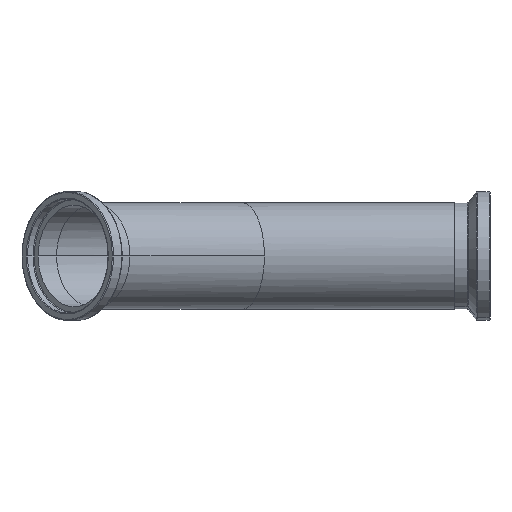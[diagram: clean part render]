
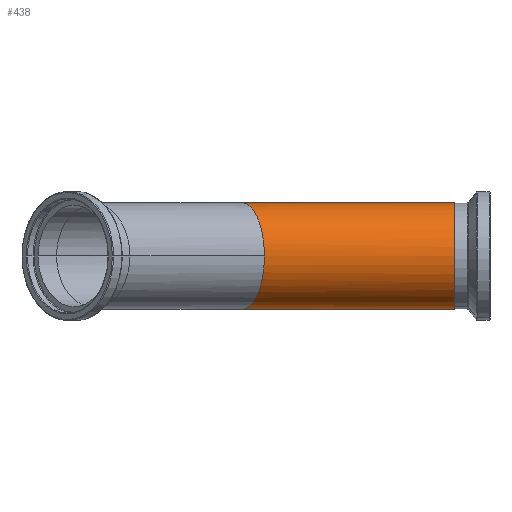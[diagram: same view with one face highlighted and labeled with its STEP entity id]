
A CAD part, left-side view. The second image highlights one B-rep face of the part: STEP entity #438.
In plain terms, the highlighted cylindrical face has radius 50.8 mm (diameter 101.6 mm), a partial arc.
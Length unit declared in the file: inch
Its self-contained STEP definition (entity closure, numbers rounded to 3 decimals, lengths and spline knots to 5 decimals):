
#72 = ORIENTED_EDGE ( 'NONE', *, *, #634, .F. ) ;
#81 = EDGE_LOOP ( 'NONE', ( #72, #424, #139, #856, #159 ) ) ;
#85 =( BOUNDED_CURVE ( )  B_SPLINE_CURVE ( 3, ( #1325, #133, #393, #514 ),
 .UNSPECIFIED., .F., .T. ) 
 B_SPLINE_CURVE_WITH_KNOTS ( ( 4, 4 ),
 ( 0., 1.5708 ),
 .UNSPECIFIED. ) 
 CURVE ( )  GEOMETRIC_REPRESENTATION_ITEM ( )  RATIONAL_B_SPLINE_CURVE ( ( 1., 0.805, 0.805, 1. ) ) 
 REPRESENTATION_ITEM ( '' )  );
#133 = CARTESIAN_POINT ( 'NONE',  ( -2., 7.17157, -1.17157 ) ) ;
#137 = DIRECTION ( 'NONE',  ( 0., 0., -1. ) ) ;
#139 = ORIENTED_EDGE ( 'NONE', *, *, #1112, .T. ) ;
#142 = DIRECTION ( 'NONE',  ( 0., 0., 1. ) ) ;
#147 = CYLINDRICAL_SURFACE ( 'NONE', #627, 2. ) ;
#159 = ORIENTED_EDGE ( 'NONE', *, *, #992, .T. ) ;
#191 = CARTESIAN_POINT ( 'NONE',  ( -2., 7.17157, 0. ) ) ;
#194 = CARTESIAN_POINT ( 'NONE',  ( -2., 7.17157, 0. ) ) ;
#261 = VECTOR ( 'NONE', #340, 39.37008 ) ;
#285 = EDGE_CURVE ( 'NONE', #812, #499, #900, .T. ) ;
#294 = VERTEX_POINT ( 'NONE', #791 ) ;
#315 = CARTESIAN_POINT ( 'NONE',  ( 0., 8., 2. ) ) ;
#335 = VECTOR ( 'NONE', #1110, 39.37008 ) ;
#340 = DIRECTION ( 'NONE',  ( 0., -1., 0. ) ) ;
#347 = CARTESIAN_POINT ( 'NONE',  ( 0., 0., 0. ) ) ;
#392 = CIRCLE ( 'NONE', #463, 2. ) ;
#393 = CARTESIAN_POINT ( 'NONE',  ( -1.17157, 7.51472, -2. ) ) ;
#424 = ORIENTED_EDGE ( 'NONE', *, *, #911, .T. ) ;
#438 = ADVANCED_FACE ( 'NONE', ( #1174 ), #147, .T. ) ;
#463 = AXIS2_PLACEMENT_3D ( 'NONE', #347, #1139, #142 ) ;
#475 = DIRECTION ( 'NONE',  ( 0., -1., 0. ) ) ;
#499 = VERTEX_POINT ( 'NONE', #515 ) ;
#514 = CARTESIAN_POINT ( 'NONE',  ( 0., 8., -2. ) ) ;
#515 = CARTESIAN_POINT ( 'NONE',  ( 0., 0., -2. ) ) ;
#626 = VERTEX_POINT ( 'NONE', #191 ) ;
#627 = AXIS2_PLACEMENT_3D ( 'NONE', #1149, #475, #137 ) ;
#634 = EDGE_CURVE ( 'NONE', #294, #745, #672, .T. ) ;
#672 = LINE ( 'NONE', #315, #335 ) ;
#745 = VERTEX_POINT ( 'NONE', #1234 ) ;
#779 = CARTESIAN_POINT ( 'NONE',  ( 0., 8., -2. ) ) ;
#783 = CARTESIAN_POINT ( 'NONE',  ( 0., 8., 2. ) ) ;
#791 = CARTESIAN_POINT ( 'NONE',  ( 0., 8., 2. ) ) ;
#812 = VERTEX_POINT ( 'NONE', #779 ) ;
#856 = ORIENTED_EDGE ( 'NONE', *, *, #285, .T. ) ;
#900 = LINE ( 'NONE', #1370, #261 ) ;
#911 = EDGE_CURVE ( 'NONE', #294, #626, #1045, .T. ) ;
#992 = EDGE_CURVE ( 'NONE', #499, #745, #392, .T. ) ;
#1045 =( BOUNDED_CURVE ( )  B_SPLINE_CURVE ( 3, ( #783, #1348, #1113, #194 ),
 .UNSPECIFIED., .F., .T. ) 
 B_SPLINE_CURVE_WITH_KNOTS ( ( 4, 4 ),
 ( 4.71239, 6.28319 ),
 .UNSPECIFIED. ) 
 CURVE ( )  GEOMETRIC_REPRESENTATION_ITEM ( )  RATIONAL_B_SPLINE_CURVE ( ( 1., 0.805, 0.805, 1. ) ) 
 REPRESENTATION_ITEM ( '' )  );
#1110 = DIRECTION ( 'NONE',  ( 0., -1., 0. ) ) ;
#1112 = EDGE_CURVE ( 'NONE', #626, #812, #85, .T. ) ;
#1113 = CARTESIAN_POINT ( 'NONE',  ( -2., 7.17157, 1.17157 ) ) ;
#1139 = DIRECTION ( 'NONE',  ( 0., 1., 0. ) ) ;
#1149 = CARTESIAN_POINT ( 'NONE',  ( 0., 8., 0. ) ) ;
#1174 = FACE_OUTER_BOUND ( 'NONE', #81, .T. ) ;
#1234 = CARTESIAN_POINT ( 'NONE',  ( 0., 0., 2. ) ) ;
#1325 = CARTESIAN_POINT ( 'NONE',  ( -2., 7.17157, 0. ) ) ;
#1348 = CARTESIAN_POINT ( 'NONE',  ( -1.17157, 7.51472, 2. ) ) ;
#1370 = CARTESIAN_POINT ( 'NONE',  ( 0., 8., -2. ) ) ;
